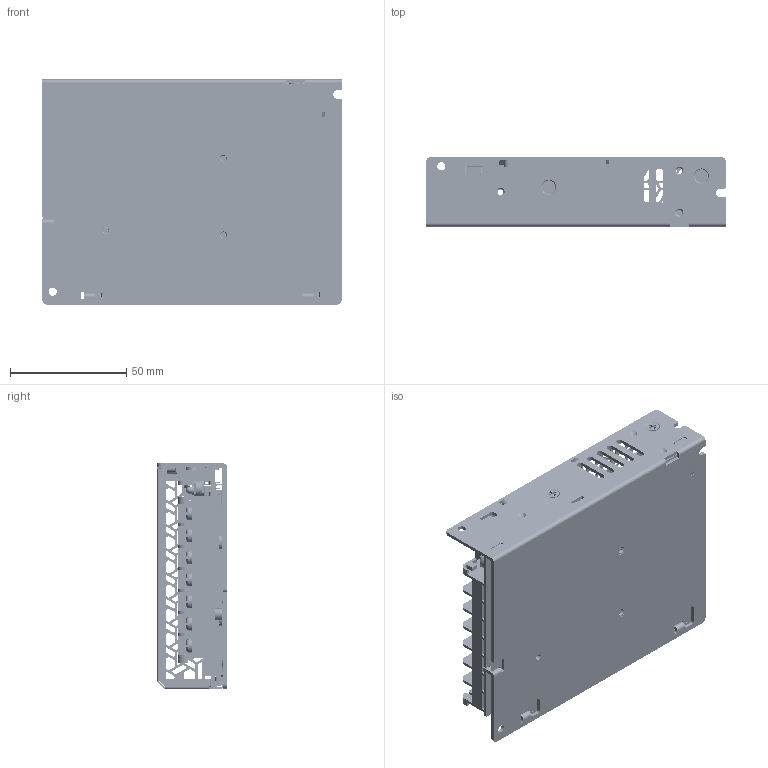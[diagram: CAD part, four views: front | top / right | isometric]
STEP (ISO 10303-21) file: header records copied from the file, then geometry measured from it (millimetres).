
FILE_DESCRIPTION((''),'2;1');
FILE_NAME('BP_ASM','2022-08-26T',('pe202'),(''),'PRO/ENGINEER BY PARAMETRIC TECHNOLOGY CORPORATION, 2014000','PRO/ENGINEER BY PARAMETRIC TECHNOLOGY CORPORATION, 2014000','');
FILE_SCHEMA(('CONFIG_CONTROL_DESIGN','GEOMETRIC_VALIDATION_PROPERTIES_MIM'));
Products named in the file (1): BP_ASM
Bounding box: 129 x 30 x 97 mm (x, y, z)
Volume: 63737.2 mm3; surface area: 100763.8 mm2
Topology: 2 solids, 50 shells, 6267 faces, 18521 edges, 12300 vertices
Faces by surface type: bspline 3891, revolution 2376
Entity records: 308855 total; most frequent: CARTESIAN_POINT 116781, ORIENTED_EDGE 36950, DIRECTION 24921, EDGE_CURVE 18503, VERTEX_POINT 12301, VECTOR 12287, LINE 12287, EDGE_LOOP 7388
